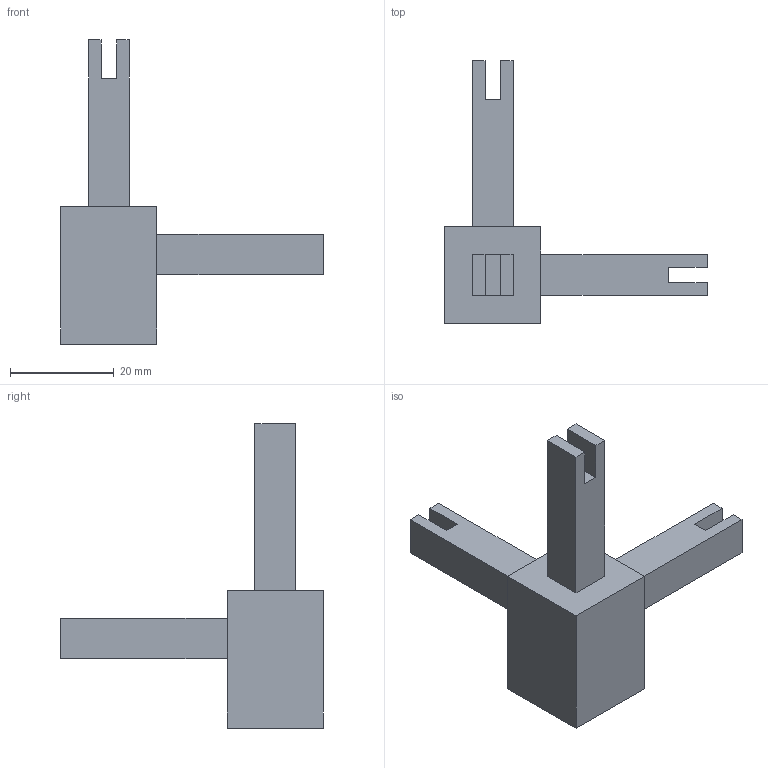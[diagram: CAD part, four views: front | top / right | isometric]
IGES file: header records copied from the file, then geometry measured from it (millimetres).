
Start section: Data from Parasolid IGES Translator 20.0.26, Copyright(c) 2006 Siemens P LM Software. All Rights Reserved.
Global section: file name: 9298831.igs; native system: By Siemens PLM Incorporated; preprocessor: XPlus GENERIC/IGES 20.0.26; author: Noname; organization: Noname; date: 20210831.150029; units: millimetre
Bounding box: 50.5 x 50.5 x 58.5 mm (x, y, z)
Surface area: 5856.7 mm2 (no closed solid volume)
Topology: 0 solids, 0 shells, 33 faces, 168 edges, 168 vertices
Faces by surface type: extrusion 33
